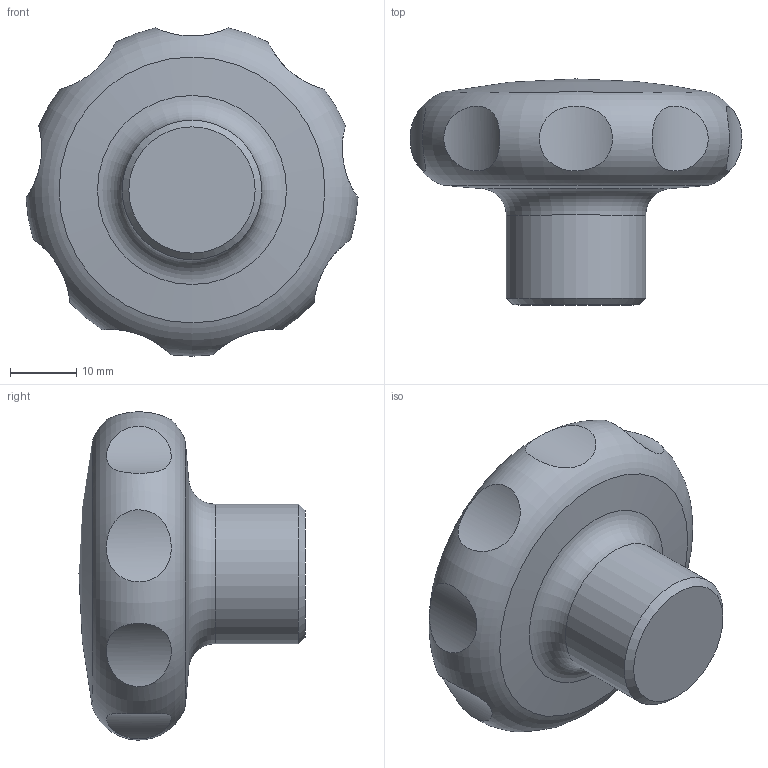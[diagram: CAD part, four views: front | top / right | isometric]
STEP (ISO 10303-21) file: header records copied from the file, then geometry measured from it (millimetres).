
FILE_DESCRIPTION( ( 'STEP AP203' ), '1' );
FILE_NAME( 'C:/Temp/Ganter_Step_05_03_2020/data/2_2/gn_5335/gn_5335_ni_a/Stainless steel-Star knob GN 5335-50-A.stp', '2020-03-05T12:10:27', ( 'License CC BY-ND 4.0' ), ( 'CADENAS' ), ' ', 'PARTsolutions', ' ' );
FILE_SCHEMA( ( 'CONFIG_CONTROL_DESIGN' ) );
Length unit declared in the file: millimetre
Products named in the file (1): _Stainless steel-Star knob GN 5335-50-A
Bounding box: 49.94 x 34 x 49.38 mm (x, y, z)
Volume: 31945 mm3; surface area: 6178.4 mm2
Topology: 1 solids, 1 shells, 16 faces, 23 edges, 17 vertices
Faces by surface type: cylinder 10, torus 2, sphere 2, plane 1, cone 1
Full cylindrical faces by diameter (mm): 21 x1
Entity records: 1074 total; most frequent: CARTESIAN_POINT 784, DIRECTION 46, EDGE_LOOP 30, ORIENTED_EDGE 30, AXIS2_PLACEMENT_3D 23, FACE_OUTER_BOUND 20, VERTEX_POINT 17, ADVANCED_FACE 16
